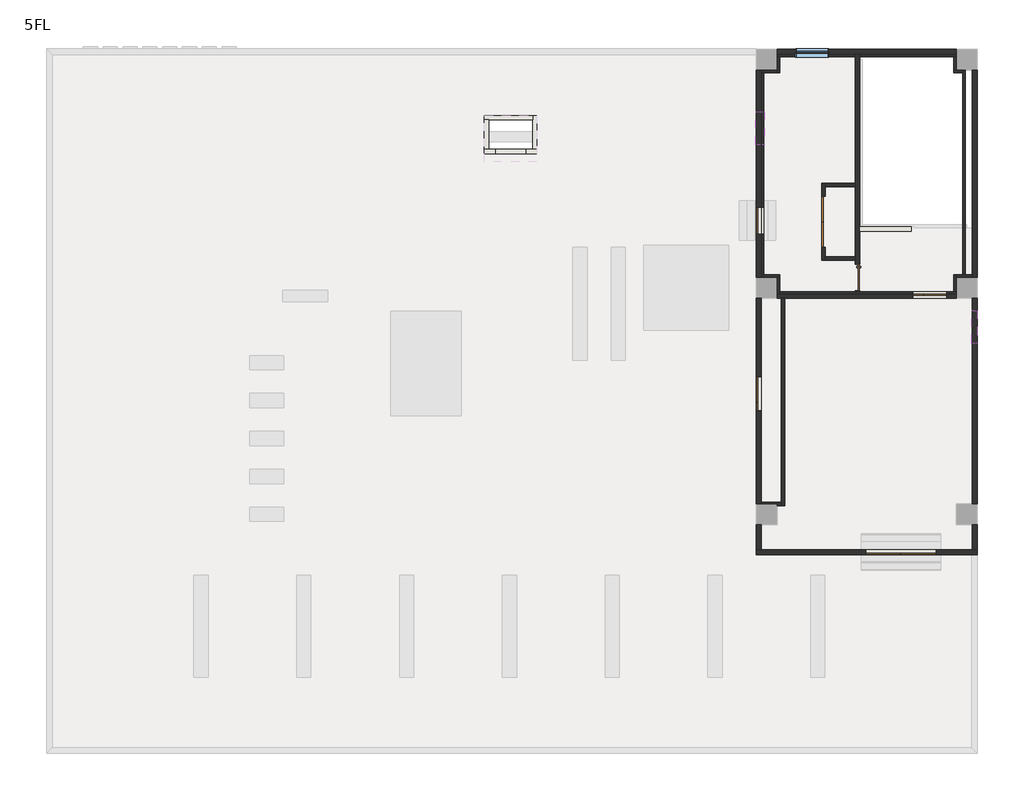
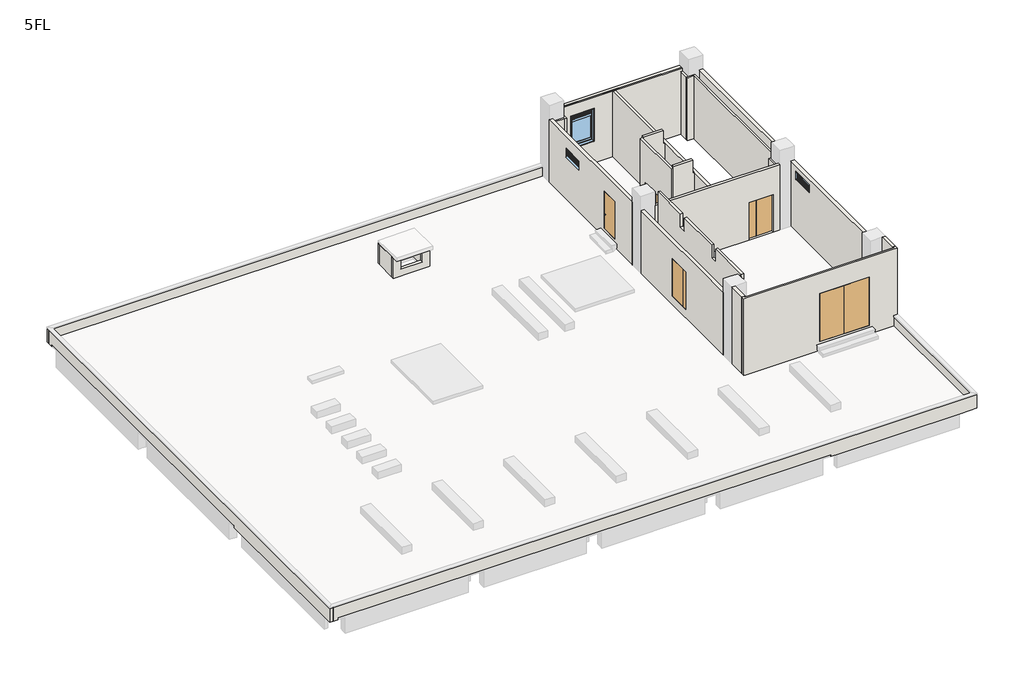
# One storey, part 1 of 3: 32 walls, 6 doors, 3 windows.
"""IFC4 building model written with IfcOpenShell, lengths in millimetres."""

from ifc_helpers import new_model, si_unit, frame, origin, place, context, project, spatial, polyline, outline, extrude, faceted_brep, transform, mapped, element, save
from components import door_19447788, door_c34db0e4, door_3f385317, door_eb4554f3, door_6b55382e, door_d86e35d7, ag_04_25b0d088, ag_04_77c323ad, aw10_97079301

model = new_model("IFC4")

# Units and contexts
model_context = context("Model", 3, world=origin())
ifc_project = project(units=[si_unit("LENGTHUNIT", "METRE", prefix="MILLI")], contexts=[model_context])

# Site, building, storey
site = spatial("IfcSite", under=ifc_project)
building = spatial("IfcBuilding", under=site)
storey = spatial("IfcBuildingStorey", under=building, Name="5FL", Elevation=16400.0)

# Doors
placement = place(None, origin())
door_shape = door_19447788(model_context)
element("IfcDoor", 1, ObjectType="営_片開き扉 : SD4c 950*2000", at=placement, inside=storey, context=model_context, shape_type="MappedRepresentation", body=[
    mapped(door_shape, transform((24715.0, 18375.0, 17000.0), x_axis=(0.0, -1.0, 0.0), y_axis=(1.0, 0.0, 0.0), z_axis=(0.0, 0.0, 1.0))),
])
door_2_shape = door_c34db0e4(model_context)
element("IfcDoor", 2, ObjectType="営_片開き扉 : SD4a 950*2000", at=placement, inside=storey, context=model_context, shape_type="MappedRepresentation", body=[
    mapped(door_2_shape, transform((28200.0, 16365.0, 16400.0), x_axis=(0.0, -1.0, 0.0), y_axis=(1.0, 0.0, 0.0), z_axis=(0.0, 0.0, 1.0))),
])
door_3_shape = door_3f385317(model_context)
element("IfcDoor", 3, ObjectType="営_親子扉 : SD9 1350*2000", at=placement, inside=storey, context=model_context, shape_type="MappedRepresentation", body=[
    mapped(door_3_shape, transform((24715.0, 12265.0, 17000.0), x_axis=(0.0, 1.0, 0.0), y_axis=(-1.0, 0.0, 0.0), z_axis=(0.0, 0.0, 1.0))),
])
door_4_shape = door_eb4554f3(model_context)
element("IfcDoor", 4, ObjectType="営_親子扉 : SD10 1110*2685", at=placement, inside=storey, context=model_context, shape_type="MappedRepresentation", body=[
    mapped(door_4_shape, transform((30745.0, 15705.0, 16400.0), x_axis=(1.0, 0.0, 0.0), y_axis=(0.0, 1.0, 0.0), z_axis=(0.0, 0.0, 1.0))),
])
door_5_shape = door_6b55382e(model_context)
element("IfcDoor", 5, ObjectType="営_両開き扉 : SD2 2500*2585", at=placement, inside=storey, context=model_context, shape_type="MappedRepresentation", body=[
    mapped(door_5_shape, transform((29735.0, 6665.0, 17000.0), x_axis=(1.0, 0.0, 0.0), y_axis=(0.0, 1.0, 0.0), z_axis=(0.0, 0.0, 1.0))),
])
door_6_shape = door_d86e35d7(model_context)
element("IfcDoor", 6, ObjectType="営_両開き扉 : SD8 1800*2000", at=placement, inside=storey, context=model_context, shape_type="MappedRepresentation", body=[
    mapped(door_6_shape, transform((27000.0, 18335.0, 16400.0), x_axis=(0.0, 1.0, 0.0), y_axis=(-1.0, 0.0, 0.0), z_axis=(0.0, 0.0, 1.0))),
])

# Walls
element("IfcWall", 7, ObjectType="(外壁)RC150+20", at=placement, inside=storey, context=model_context, shape_type="Brep", body=[
    faceted_brep([(24630.0, 7630.0, 20650.0), (24630.0, 7630.0, 16300.0), (24630.0, 6750.0, 16300.0), (24630.0, 6750.0, 16390.0), (24630.0, 6750.0, 20650.0), (24800.0, 7630.0, 16300.0), (24800.0, 7630.0, 20650.0), (24800.0, 6750.0, 20650.0), (24800.0, 6750.0, 16300.0), (24715.0, 6750.0, 20650.0)], [[[0, 1, 2, 3, 4]], [[5, 6, 7, 8]], [[1, 5, 8, 2]], [[4, 9, 7, 6, 0]], [[6, 5, 1, 0]], [[2, 8, 7, 9, 4, 3]]]),
    faceted_brep([(24630.0, 10575.0, 16300.0), (24630.0, 8370.0, 16300.0), (24630.0, 8370.0, 19900.0), (24630.0, 15630.0, 19900.0), (24630.0, 15630.0, 16300.0), (24630.0, 13675.0, 16300.0), (24630.0, 13675.0, 16390.0), (24630.0, 13325.0, 16390.0), (24630.0, 13325.0, 16300.0), (24630.0, 10925.0, 16300.0), (24630.0, 10925.0, 16390.0), (24630.0, 10575.0, 16390.0), (24630.0, 11665.0, 19000.0), (24630.0, 11665.0, 17000.0), (24630.0, 12865.0, 17000.0), (24630.0, 12865.0, 19000.0), (24800.0, 8370.0, 16300.0), (24800.0, 10575.0, 16300.0), (24800.0, 10575.0, 16390.0), (24800.0, 10925.0, 16390.0), (24800.0, 10925.0, 16300.0), (24800.0, 13325.0, 16300.0), (24800.0, 13325.0, 16390.0), (24800.0, 13675.0, 16390.0), (24800.0, 13675.0, 16300.0), (24800.0, 15630.0, 16300.0), (24800.0, 15630.0, 19900.0), (24800.0, 8370.0, 19900.0), (24800.0, 11665.0, 17000.0), (24800.0, 11665.0, 19000.0), (24800.0, 12865.0, 19000.0), (24800.0, 12865.0, 17000.0)], [[[0, 1, 2, 3, 4, 5, 6, 7, 8, 9, 10, 11], [12, 13, 14, 15]], [[16, 17, 18, 19, 20, 21, 22, 23, 24, 25, 26, 27], [28, 29, 30, 31]], [[4, 25, 24, 5]], [[16, 1, 0, 17]], [[20, 9, 8, 21]], [[25, 4, 3, 26]], [[1, 16, 27, 2]], [[13, 12, 29, 28]], [[14, 13, 28, 31]], [[15, 14, 31, 30]], [[12, 15, 30, 29]], [[3, 2, 27, 26]], [[11, 18, 17, 0]], [[19, 10, 9, 20]], [[18, 11, 10, 19]], [[7, 22, 21, 8]], [[23, 6, 5, 24]], [[22, 7, 6, 23]]]),
    faceted_brep([(24630.0, 18495.0, 16300.0), (24630.0, 16370.0, 16300.0), (24630.0, 16370.0, 19900.0), (24630.0, 23680.0, 19900.0), (24630.0, 23680.0, 16300.0), (24630.0, 21515.0, 16300.0), (24630.0, 21515.0, 16390.0), (24630.0, 21165.0, 16390.0), (24630.0, 21165.0, 16300.0), (24630.0, 18845.0, 16300.0), (24630.0, 18845.0, 16390.0), (24630.0, 18495.0, 16390.0), (24630.0, 18850.0, 17000.0), (24630.0, 18850.0, 19000.0), (24630.0, 17900.0, 19000.0), (24630.0, 17900.0, 17000.0), (24630.0, 21075.0, 18775.0), (24630.0, 22195.0, 18775.0), (24630.0, 22195.0, 19260.0), (24630.0, 21075.0, 19260.0), (24800.0, 16370.0, 16300.0), (24800.0, 18495.0, 16300.0), (24800.0, 18495.0, 16390.0), (24800.0, 18845.0, 16390.0), (24800.0, 18845.0, 16300.0), (24800.0, 21165.0, 16300.0), (24800.0, 21165.0, 16390.0), (24800.0, 21515.0, 16390.0), (24800.0, 21515.0, 16300.0), (24800.0, 23680.0, 16300.0), (24800.0, 23680.0, 19900.0), (24800.0, 16370.0, 19900.0), (24800.0, 18850.0, 19000.0), (24800.0, 18850.0, 17000.0), (24800.0, 17900.0, 17000.0), (24800.0, 17900.0, 19000.0), (24800.0, 22225.0, 19285.0), (24800.0, 22225.0, 18865.0), (24800.0, 21045.0, 18865.0), (24800.0, 21045.0, 19285.0), (24760.0, 22225.0, 19285.0), (24760.0, 22225.0, 18865.0), (24760.0, 21045.0, 18865.0), (24760.0, 21045.0, 19285.0), (24760.0, 22215.0, 18865.0), (24760.0, 21055.0, 18865.0), (24760.0, 21055.0, 19280.0), (24760.0, 22215.0, 19280.0), (24690.0, 22215.0, 19280.0), (24690.0, 22215.0, 18784.2307692), (24760.0, 22215.0, 18795.0), (24760.0, 21055.0, 18795.0), (24690.0, 21055.0, 18784.2307692), (24690.0, 21055.0, 19280.0), (24690.0, 22195.0, 18784.2307692), (24690.0, 21075.0, 18784.2307692), (24690.0, 21075.0, 19260.0), (24690.0, 22195.0, 19260.0)], [[[0, 1, 2, 3, 4, 5, 6, 7, 8, 9, 10, 11], [12, 13, 14, 15], [16, 17, 18, 19]], [[20, 21, 22, 23, 24, 25, 26, 27, 28, 29, 30, 31], [32, 33, 34, 35], [36, 37, 38, 39]], [[4, 29, 28, 5]], [[20, 1, 0, 21]], [[24, 9, 8, 25]], [[33, 32, 13, 12]], [[34, 33, 12, 15]], [[35, 34, 15, 14]], [[32, 35, 14, 13]], [[29, 4, 3, 30]], [[1, 20, 31, 2]], [[40, 41, 37, 36]], [[42, 43, 39, 38]], [[37, 41, 44, 45, 42, 38]], [[41, 40, 43, 42, 45, 46, 47, 44]], [[40, 36, 39, 43]], [[44, 47, 48, 49, 50]], [[46, 45, 51, 52, 53]], [[50, 49, 54, 17, 16, 55, 52, 51]], [[49, 48, 53, 52, 55, 56, 57, 54]], [[47, 46, 53, 48]], [[45, 44, 50, 51]], [[17, 54, 57, 18]], [[55, 16, 19, 56]], [[57, 56, 19, 18]], [[3, 2, 31, 30]], [[11, 22, 21, 0]], [[23, 10, 9, 24]], [[22, 11, 10, 23]], [[7, 26, 25, 8]], [[27, 6, 5, 28]], [[26, 7, 6, 27]]]),
])
element("IfcWall", 8, ObjectType="(内壁)150_RC", at=placement, inside=storey, context=model_context, shape_type="Brep", body=[
    faceted_brep([(31680.0, 15780.0, 16390.0), (25460.0, 15780.0, 16390.0), (25370.0, 15780.0, 16390.0), (25370.0, 15780.0, 19750.0), (25370.0, 15780.0, 19900.0), (28125.0, 15780.0, 19900.0), (28275.0, 15780.0, 19900.0), (31680.0, 15780.0, 19900.0), (31680.0, 15780.0, 19750.0), (30145.0, 15780.0, 18400.0), (30145.0, 15780.0, 16400.0), (31345.0, 15780.0, 16400.0), (31345.0, 15780.0, 18400.0), (25370.0, 15630.0, 16390.0), (25505.0, 15630.0, 16390.0), (25625.0, 15630.0, 16390.0), (31680.0, 15630.0, 16390.0), (31680.0, 15630.0, 19900.0), (25370.0, 15630.0, 19900.0), (30145.0, 15630.0, 16400.0), (30145.0, 15630.0, 18400.0), (31345.0, 15630.0, 18400.0), (31345.0, 15630.0, 16400.0)], [[[0, 1, 2, 3, 4, 5, 6, 7, 8], [9, 10, 11, 12]], [[13, 14, 15, 16, 17, 18], [19, 20, 21, 22]], [[13, 2, 1, 0, 16, 15, 14]], [[10, 9, 20, 19]], [[11, 10, 19, 22]], [[12, 11, 22, 21]], [[9, 12, 21, 20]], [[2, 13, 18, 4, 3]], [[16, 0, 8, 7, 17]], [[7, 6, 5, 4, 18, 17]]]),
])
element("IfcWall", 9, ObjectType="(外壁)RC150+20", at=placement, inside=storey, context=model_context, shape_type="Brep", body=[
    faceted_brep([(31680.0, 24250.0, 19900.0), (25370.0, 24250.0, 19900.0), (25370.0, 24250.0, 16390.0), (31680.0, 24250.0, 16390.0), (27190.0, 24250.0, 19320.0), (27190.0, 24250.0, 17565.0), (26010.0, 24250.0, 17565.0), (26010.0, 24250.0, 19320.0), (25370.0, 24420.0, 19900.0), (31680.0, 24420.0, 19900.0), (31680.0, 24420.0, 16390.0), (25370.0, 24420.0, 16390.0), (27160.0, 24420.0, 17475.0), (27160.0, 24420.0, 19295.0), (26040.0, 24420.0, 19295.0), (26040.0, 24420.0, 17475.0), (25370.0, 24290.0, 16390.0), (27180.0, 24360.0, 19315.0), (26020.0, 24360.0, 19315.0), (26020.0, 24360.0, 17484.2307692), (26040.0, 24360.0, 17484.2307692), (26040.0, 24360.0, 19295.0), (27160.0, 24360.0, 19295.0), (27160.0, 24360.0, 17484.2307692), (27180.0, 24360.0, 17484.2307692), (27190.0, 24290.0, 19320.0), (27190.0, 24290.0, 17565.0), (26010.0, 24290.0, 17565.0), (26010.0, 24290.0, 19320.0), (27180.0, 24290.0, 17565.0), (26020.0, 24290.0, 17565.0), (27180.0, 24290.0, 19315.0), (26020.0, 24290.0, 19315.0), (27180.0, 24290.0, 17495.0), (26020.0, 24290.0, 17495.0)], [[[0, 1, 2, 3], [4, 5, 6, 7]], [[8, 9, 10, 11], [12, 13, 14, 15]], [[0, 9, 8, 1]], [[9, 0, 3, 10]], [[1, 8, 11, 16, 2]], [[3, 2, 16, 11, 10]], [[17, 18, 19, 20, 21, 22, 23, 24]], [[23, 22, 13, 12]], [[25, 26, 5, 4]], [[27, 28, 7, 6]], [[26, 29, 30, 27, 6, 5]], [[31, 29, 26, 25, 28, 27, 30, 32]], [[28, 25, 4, 7]], [[33, 29, 31, 17, 24]], [[30, 34, 19, 18, 32]], [[23, 12, 15, 20, 19, 34, 33, 24]], [[18, 17, 31, 32]], [[29, 33, 34, 30]], [[14, 21, 20, 15]], [[22, 21, 14, 13]]]),
])
element("IfcWall", 10, ObjectType="(外壁)RC150+20", at=placement, inside=storey, context=model_context, shape_type="Brep", body=[
    faceted_brep([(32250.0, 6750.0, 16300.0), (32250.0, 6750.0, 20650.0), (32250.0, 7630.0, 20650.0), (32250.0, 7630.0, 16300.0), (32420.0, 6750.0, 20650.0), (32420.0, 6750.0, 16300.0), (32420.0, 7605.0, 16300.0), (32420.0, 7630.0, 16300.0), (32420.0, 7630.0, 20650.0), (32335.0, 6750.0, 16300.0), (32325.0, 6750.0, 20650.0)], [[[0, 1, 2, 3]], [[4, 5, 6, 7, 8]], [[5, 9, 0, 3, 7, 6]], [[1, 10, 4, 8, 2]], [[0, 9, 5, 4, 10, 1]], [[3, 2, 8, 7]]]),
    faceted_brep([(32250.0, 8370.0, 19900.0), (32250.0, 15630.0, 19900.0), (32250.0, 15630.0, 16390.0), (32250.0, 8370.0, 16390.0), (32250.0, 14027.5, 19595.0), (32250.0, 14027.5, 19175.0), (32250.0, 15207.5, 19175.0), (32250.0, 15207.5, 19595.0), (32420.0, 15630.0, 19900.0), (32420.0, 8370.0, 19900.0), (32420.0, 8370.0, 16390.0), (32420.0, 15630.0, 16390.0), (32420.0, 15177.5, 19085.0), (32420.0, 14057.5, 19085.0), (32420.0, 14057.5, 19570.0), (32420.0, 15177.5, 19570.0), (32335.0, 8370.0, 16390.0), (32335.0, 15630.0, 16390.0), (32290.0, 14027.5, 19595.0), (32290.0, 14027.5, 19175.0), (32290.0, 15207.5, 19175.0), (32290.0, 15207.5, 19595.0), (32290.0, 14037.5, 19175.0), (32290.0, 15197.5, 19175.0), (32290.0, 15197.5, 19590.0), (32290.0, 14037.5, 19590.0), (32360.0, 14037.5, 19590.0), (32360.0, 14037.5, 19094.2307692), (32290.0, 14037.5, 19105.0), (32290.0, 15197.5, 19105.0), (32360.0, 15197.5, 19094.2307692), (32360.0, 15197.5, 19590.0), (32360.0, 14057.5, 19094.2307692), (32360.0, 15177.5, 19094.2307692), (32360.0, 15177.5, 19570.0), (32360.0, 14057.5, 19570.0)], [[[0, 1, 2, 3], [4, 5, 6, 7]], [[8, 9, 10, 11], [12, 13, 14, 15]], [[9, 0, 3, 16, 10]], [[1, 8, 11, 17, 2]], [[18, 19, 5, 4]], [[20, 21, 7, 6]], [[5, 19, 22, 23, 20, 6]], [[19, 18, 21, 20, 23, 24, 25, 22]], [[18, 4, 7, 21]], [[22, 25, 26, 27, 28]], [[24, 23, 29, 30, 31]], [[28, 27, 32, 13, 12, 33, 30, 29]], [[27, 26, 31, 30, 33, 34, 35, 32]], [[25, 24, 31, 26]], [[23, 22, 28, 29]], [[13, 32, 35, 14]], [[33, 12, 15, 34]], [[35, 34, 15, 14]], [[1, 0, 9, 8]], [[3, 2, 17, 11, 10, 16]]]),
    faceted_brep([(32250.0, 23680.0, 16390.0), (32250.0, 16370.0, 16390.0), (32250.0, 16370.0, 19900.0), (32250.0, 23680.0, 19900.0), (32420.0, 16370.0, 16390.0), (32420.0, 23680.0, 16390.0), (32420.0, 23680.0, 19900.0), (32420.0, 16370.0, 19900.0), (32335.0, 16370.0, 16390.0)], [[[0, 1, 2, 3]], [[4, 5, 6, 7]], [[1, 8, 4, 7, 2]], [[5, 0, 3, 6]], [[1, 0, 5, 4, 8]], [[3, 2, 7, 6]]]),
])
element("IfcWall", 11, ObjectType="(内壁)150_RC", at=placement, inside=storey, context=model_context, shape_type="Brep", body=[
    faceted_brep([(28125.0, 15890.0, 18400.0), (28125.0, 15890.0, 16400.0), (28125.0, 15780.0, 16400.0), (28125.0, 15780.0, 19900.0), (28125.0, 16975.0, 19900.0), (28125.0, 17095.0, 19900.0), (28125.0, 19575.0, 19900.0), (28125.0, 19695.0, 19900.0), (28125.0, 24250.0, 19900.0), (28125.0, 24250.0, 16400.0), (28125.0, 19695.0, 16400.0), (28125.0, 19575.0, 16400.0), (28125.0, 17095.0, 16400.0), (28125.0, 16975.0, 16400.0), (28125.0, 16840.0, 16400.0), (28125.0, 16840.0, 18400.0), (28275.0, 15780.0, 16400.0), (28275.0, 15890.0, 16400.0), (28275.0, 15890.0, 18400.0), (28275.0, 16840.0, 18400.0), (28275.0, 16840.0, 16400.0), (28275.0, 18000.0, 16400.0), (28275.0, 18150.0, 16400.0), (28275.0, 24250.0, 16400.0), (28275.0, 24250.0, 19900.0), (28275.0, 15780.0, 19900.0)], [[[0, 1, 2, 3, 4, 5, 6, 7, 8, 9, 10, 11, 12, 13, 14, 15]], [[16, 17, 18, 19, 20, 21, 22, 23, 24, 25]], [[2, 1, 17, 16]], [[14, 13, 12, 11, 10, 9, 23, 22, 21, 20]], [[8, 7, 6, 5, 4, 3, 25, 24]], [[3, 2, 16, 25]], [[20, 19, 15, 14]], [[18, 17, 1, 0]], [[19, 18, 0, 15]], [[9, 8, 24, 23]]]),
])
element("IfcWall", 12, ObjectType="(外壁)RC150+20", at=placement, inside=storey, context=model_context, shape_type="Brep", body=[
    faceted_brep([(-420.0, 24420.0, 17050.0), (24630.0, 24420.0, 17050.0), (24630.0, 24420.0, 16390.0), (19000.0, 24420.0, 16390.0), (13000.0, 24420.0, 16390.0), (7000.0, 24420.0, 16390.0), (0.0, 24420.0, 16390.0), (0.0, 24420.0, 16300.0), (-420.0, 24420.0, 16300.0), (24630.0, 24250.0, 17050.0), (-250.0, 24250.0, 17050.0), (-420.0, 24250.0, 17050.0), (-420.0, 24250.0, 16300.0), (-325.0, 24250.0, 16300.0), (0.0, 24250.0, 16300.0), (0.0, 24250.0, 16390.0), (24630.0, 24250.0, 16390.0), (0.0, 24290.0, 16300.0), (0.0, 24290.0, 16390.0), (24630.0, 24290.0, 16390.0)], [[[0, 1, 2, 3, 4, 5, 6, 7, 8]], [[9, 10, 11, 12, 13, 14, 15, 16]], [[12, 8, 7, 17, 14, 13]], [[1, 0, 11, 10, 9]], [[0, 8, 12, 11]], [[15, 18, 6, 5, 4, 3, 2, 19, 16]], [[6, 18, 15, 14, 17, 7]], [[1, 9, 16, 19, 2]]]),
])
element("IfcWall", 13, ObjectType="(外壁)RC150+20", at=placement, inside=storey, context=model_context, shape_type="Brep", body=[
    faceted_brep([(-250.0, 24250.0, 17050.0), (-250.0, -250.0, 17050.0), (-250.0, -420.0, 17050.0), (-250.0, -420.0, 16300.0), (-250.0, -335.0, 16300.0), (-250.0, -335.0, 16390.0), (-250.0, -250.0, 16390.0), (-250.0, 24250.0, 16390.0), (-420.0, -420.0, 17050.0), (-420.0, 24250.0, 17050.0), (-420.0, 24250.0, 16300.0), (-420.0, 24000.0, 16300.0), (-420.0, 24000.0, 16390.0), (-420.0, 16000.0, 16390.0), (-420.0, 8000.0, 16390.0), (-420.0, 8000.0, 16300.0), (-420.0, 7605.0, 16300.0), (-420.0, 370.0, 16300.0), (-420.0, -420.0, 16300.0), (-325.0, 24250.0, 16300.0), (-325.0, 24000.0, 16300.0), (-325.0, 8000.0, 16300.0), (-325.0, -335.0, 16300.0), (-325.0, 24250.0, 16390.0), (-325.0, -335.0, 16390.0), (-325.0, 8000.0, 16390.0), (-325.0, 24000.0, 16390.0)], [[[0, 1, 2, 3, 4, 5, 6, 7]], [[8, 9, 10, 11, 12, 13, 14, 15, 16, 17, 18]], [[10, 19, 20, 11]], [[3, 18, 17, 16, 15, 21, 22, 4]], [[2, 1, 0, 9, 8]], [[3, 2, 8, 18]], [[10, 9, 0, 7, 23, 19]], [[5, 24, 25, 14, 13, 12, 26, 23, 7, 6]], [[24, 5, 4, 22]], [[24, 22, 21, 25]], [[19, 23, 26, 20]], [[14, 25, 21, 15]], [[26, 12, 11, 20]]]),
])
element("IfcWall", 14, ObjectType="(外壁)RC150+20", at=placement, inside=storey, context=model_context, shape_type="Brep", body=[
    faceted_brep([(-250.0, -250.0, 17050.0), (32250.0, -250.0, 17050.0), (32420.0, -250.0, 17050.0), (32420.0, -250.0, 16300.0), (32335.0, -250.0, 16300.0), (32335.0, -250.0, 16390.0), (32250.0, -250.0, 16390.0), (-250.0, -250.0, 16390.0), (32420.0, -420.0, 17050.0), (-250.0, -420.0, 17050.0), (-250.0, -420.0, 16300.0), (0.0, -420.0, 16300.0), (0.0, -420.0, 16390.0), (7000.0, -420.0, 16390.0), (13000.0, -420.0, 16390.0), (19000.0, -420.0, 16390.0), (25000.0, -420.0, 16390.0), (25000.0, -420.0, 16300.0), (25395.0, -420.0, 16300.0), (31630.0, -420.0, 16300.0), (32420.0, -420.0, 16300.0), (-250.0, -335.0, 16300.0), (0.0, -335.0, 16300.0), (25000.0, -335.0, 16300.0), (32335.0, -335.0, 16300.0), (-250.0, -335.0, 16390.0), (32335.0, -335.0, 16390.0), (25000.0, -335.0, 16390.0), (0.0, -335.0, 16390.0)], [[[0, 1, 2, 3, 4, 5, 6, 7]], [[8, 9, 10, 11, 12, 13, 14, 15, 16, 17, 18, 19, 20]], [[10, 21, 22, 11]], [[3, 20, 19, 18, 17, 23, 24, 4]], [[2, 1, 0, 9, 8]], [[3, 2, 8, 20]], [[10, 9, 0, 7, 25, 21]], [[5, 26, 27, 16, 15, 14, 13, 12, 28, 25, 7, 6]], [[26, 5, 4, 24]], [[21, 25, 28, 22]], [[26, 24, 23, 27]], [[28, 12, 11, 22]], [[16, 27, 23, 17]]]),
])
element("IfcWall", 15, ObjectType="(外壁)RC150+20", at=placement, inside=storey, context=model_context, shape_type="Brep", body=[
    faceted_brep([(32250.0, -250.0, 17050.0), (32250.0, 6580.0, 17050.0), (32250.0, 6580.0, 16390.0), (32250.0, -250.0, 16390.0), (32420.0, -250.0, 16300.0), (32420.0, 370.0, 16300.0), (32420.0, 6580.0, 16300.0), (32420.0, 6580.0, 16390.0), (32420.0, 6580.0, 17050.0), (32420.0, -250.0, 17050.0), (32335.0, -250.0, 16300.0), (32335.0, 6580.0, 16300.0), (32335.0, -250.0, 16390.0), (32335.0, 6580.0, 16390.0)], [[[0, 1, 2, 3]], [[4, 5, 6, 7, 8, 9]], [[6, 5, 4, 10, 11]], [[1, 0, 9, 8]], [[4, 9, 0, 3, 12, 10]], [[1, 8, 7, 6, 11, 13, 2]], [[13, 12, 3, 2]], [[12, 13, 11, 10]]]),
])
element("IfcWall", 16, ObjectType="(外壁)RC150+20", at=placement, inside=storey, context=model_context, shape_type="Brep", body=[
    faceted_brep([(32420.0, 6750.0, 20650.0), (32420.0, 6750.0, 16300.0), (32335.0, 6750.0, 16300.0), (32335.0, 6750.0, 16390.0), (24630.0, 6750.0, 16390.0), (24630.0, 6750.0, 20650.0), (24715.0, 6750.0, 20650.0), (24715.0, 6750.0, 20600.0), (32325.0, 6750.0, 20600.0), (32325.0, 6750.0, 20650.0), (28485.0, 6750.0, 19585.0), (28485.0, 6750.0, 17000.0), (30985.0, 6750.0, 17000.0), (30985.0, 6750.0, 19585.0), (32420.0, 6580.0, 20650.0), (32250.0, 6580.0, 20650.0), (24800.0, 6580.0, 20650.0), (24630.0, 6580.0, 20650.0), (24630.0, 6580.0, 16390.0), (32250.0, 6580.0, 16390.0), (32335.0, 6580.0, 16390.0), (32335.0, 6580.0, 16300.0), (32420.0, 6580.0, 16300.0), (32420.0, 6580.0, 17050.0), (28485.0, 6580.0, 17000.0), (28485.0, 6580.0, 19585.0), (30985.0, 6580.0, 19585.0), (30985.0, 6580.0, 17000.0), (32325.0, 6675.0, 20650.0), (32250.0, 6675.0, 20650.0), (24800.0, 6675.0, 20650.0), (24715.0, 6675.0, 20650.0), (24715.0, 6675.0, 20600.0), (32325.0, 6675.0, 20600.0)], [[[0, 1, 2, 3, 4, 5, 6, 7, 8, 9], [10, 11, 12, 13]], [[14, 15, 16, 17, 18, 19, 20, 21, 22, 23], [24, 25, 26, 27]], [[1, 22, 21, 2]], [[17, 16, 15, 14, 0, 9, 28, 29, 30, 31, 6, 5]], [[11, 10, 25, 24]], [[12, 11, 24, 27]], [[13, 12, 27, 26]], [[10, 13, 26, 25]], [[1, 0, 14, 23, 22]], [[32, 33, 8, 7]], [[8, 33, 28, 9]], [[33, 32, 31, 30, 29, 28]], [[32, 7, 6, 31]], [[3, 20, 19, 18, 4]], [[20, 3, 2, 21]], [[17, 5, 4, 18]]]),
])
element("IfcWall", 17, ObjectType="(内壁)W3", at=placement, inside=storey, context=model_context, shape_type="Brep", body=[
    faceted_brep([(26940.0, 19695.0, 16400.0), (26940.0, 19235.0, 16400.0), (26940.0, 19235.0, 18400.0), (26940.0, 17435.0, 18400.0), (26940.0, 17435.0, 16400.0), (26940.0, 16975.0, 16400.0), (26940.0, 16975.0, 20500.0), (26940.0, 19695.0, 20500.0), (27060.0, 19235.0, 18400.0), (27060.0, 19235.0, 16400.0), (27060.0, 19575.0, 16400.0), (27060.0, 19695.0, 16400.0), (27060.0, 19695.0, 20500.0), (27060.0, 16975.0, 20500.0), (27060.0, 16975.0, 16400.0), (27060.0, 17095.0, 16400.0), (27060.0, 17435.0, 16400.0), (27060.0, 17435.0, 18400.0)], [[[0, 1, 2, 3, 4, 5, 6, 7]], [[8, 9, 10, 11, 12, 13, 14, 15, 16, 17]], [[11, 10, 9, 1, 0]], [[16, 15, 14, 5, 4]], [[7, 6, 13, 12]], [[0, 7, 12, 11]], [[6, 5, 14, 13]], [[4, 3, 17, 16]], [[2, 1, 9, 8]], [[3, 2, 8, 17]]]),
])
element("IfcWall", 18, ObjectType="(内壁)W3", at=placement, inside=storey, context=model_context, shape_type="Brep", body=[
    faceted_brep([(27060.0, 19575.0, 16400.0), (28125.0, 19575.0, 16400.0), (28125.0, 19575.0, 19900.0), (28046.0, 19575.0, 19900.0), (28046.0, 19575.0, 20600.0), (27060.0, 19575.0, 20600.0), (28125.0, 19695.0, 16400.0), (27060.0, 19695.0, 16400.0), (27060.0, 19695.0, 20500.0), (27060.0, 19695.0, 20600.0), (28046.0, 19695.0, 20600.0), (28046.0, 19695.0, 19900.0), (28125.0, 19695.0, 19900.0)], [[[0, 1, 2, 3, 4, 5]], [[6, 7, 8, 9, 10, 11, 12]], [[1, 0, 7, 6]], [[9, 5, 4, 10]], [[0, 5, 9, 8, 7]], [[1, 6, 12, 2]], [[11, 3, 2, 12]], [[3, 11, 10, 4]]]),
])
element("IfcWall", 19, ObjectType="(内壁)W3", at=placement, inside=storey, context=model_context, shape_type="Brep", body=[
    faceted_brep([(27060.0, 16975.0, 16400.0), (28125.0, 16975.0, 16400.0), (28125.0, 16975.0, 19900.0), (28046.0, 16975.0, 19900.0), (28046.0, 16975.0, 20600.0), (27060.0, 16975.0, 20600.0), (27060.0, 16975.0, 20500.0), (28125.0, 17095.0, 16400.0), (27060.0, 17095.0, 16400.0), (27060.0, 17095.0, 20600.0), (28046.0, 17095.0, 20600.0), (28046.0, 17095.0, 19900.0), (28125.0, 17095.0, 19900.0)], [[[0, 1, 2, 3, 4, 5, 6]], [[7, 8, 9, 10, 11, 12]], [[1, 0, 8, 7]], [[9, 5, 4, 10]], [[1, 7, 12, 2]], [[0, 6, 5, 9, 8]], [[11, 3, 2, 12]], [[3, 11, 10, 4]]]),
])
element("IfcWall", 20, ObjectType="(内壁)W3", at=placement, inside=storey, context=model_context, shape_type="Brep", body=[
    faceted_brep([(25505.0, 15630.0, 16390.0), (25505.0, 8430.0, 16390.0), (25505.0, 8310.0, 16390.0), (25505.0, 8310.0, 20500.0), (25505.0, 8310.0, 20600.0), (25505.0, 10575.0, 20600.0), (25505.0, 10575.0, 19900.0), (25505.0, 10925.0, 19900.0), (25505.0, 10925.0, 20600.0), (25505.0, 13325.0, 20600.0), (25505.0, 13325.0, 19900.0), (25505.0, 13675.0, 19900.0), (25505.0, 13675.0, 20600.0), (25505.0, 15630.0, 20600.0), (25625.0, 8310.0, 16390.0), (25625.0, 15630.0, 16390.0), (25625.0, 15630.0, 20600.0), (25625.0, 13675.0, 20600.0), (25625.0, 13675.0, 19900.0), (25625.0, 13325.0, 19900.0), (25625.0, 13325.0, 20600.0), (25625.0, 10925.0, 20600.0), (25625.0, 10925.0, 19900.0), (25625.0, 10575.0, 19900.0), (25625.0, 10575.0, 20600.0), (25625.0, 8310.0, 20600.0)], [[[0, 1, 2, 3, 4, 5, 6, 7, 8, 9, 10, 11, 12, 13]], [[14, 15, 16, 17, 18, 19, 20, 21, 22, 23, 24, 25]], [[2, 1, 0, 15, 14]], [[4, 25, 24, 5]], [[16, 13, 12, 17]], [[8, 21, 20, 9]], [[4, 3, 2, 14, 25]], [[0, 13, 16, 15]], [[23, 6, 5, 24]], [[6, 23, 22, 7]], [[7, 22, 21, 8]], [[19, 10, 9, 20]], [[10, 19, 18, 11]], [[11, 18, 17, 12]]]),
])
element("IfcWall", 21, ObjectType="(内壁)W3", at=placement, inside=storey, context=model_context, shape_type="Brep", body=[
    faceted_brep([(25505.0, 8430.0, 16390.0), (24800.0, 8430.0, 16390.0), (24800.0, 8430.0, 19900.0), (25000.0, 8430.0, 19900.0), (25000.0, 8430.0, 20500.0), (25505.0, 8430.0, 20500.0), (25505.0, 8310.0, 16390.0), (25505.0, 8310.0, 20500.0), (25370.0, 8310.0, 20500.0), (25370.0, 8310.0, 16390.0), (25370.0, 8370.0, 16390.0), (24800.0, 8370.0, 16390.0), (25000.0, 8370.0, 20500.0), (25370.0, 8370.0, 20500.0), (24800.0, 8370.0, 19900.0), (25000.0, 8370.0, 19900.0)], [[[0, 1, 2, 3, 4, 5]], [[6, 7, 8, 9]], [[1, 0, 6, 9, 10, 11]], [[7, 5, 4, 12, 13, 8]], [[0, 5, 7, 6]], [[1, 11, 14, 2]], [[9, 8, 13, 10]], [[11, 10, 13, 12, 15, 14]], [[3, 15, 12, 4]], [[15, 3, 2, 14]]]),
])
element("IfcWall", 22, ObjectType="(外壁)RC150", at=placement, inside=storey, context=model_context, shape_type="Brep", body=[
    faceted_brep([(15025.0, 20735.0, 16390.0), (16875.0, 20735.0, 16390.0), (16875.0, 20735.0, 17600.0), (16500.0, 20735.0, 17600.0), (16500.0, 20735.0, 16900.0), (15400.0, 20735.0, 16900.0), (15400.0, 20735.0, 17600.0), (15025.0, 20735.0, 17600.0), (15025.0, 20885.0, 16390.0), (15025.0, 20885.0, 17600.0), (15175.0, 20885.0, 17600.0), (15400.0, 20885.0, 17600.0), (15400.0, 20885.0, 16900.0), (16500.0, 20885.0, 16900.0), (16500.0, 20885.0, 17600.0), (16725.0, 20885.0, 17600.0), (16875.0, 20885.0, 17600.0), (16875.0, 20885.0, 16390.0), (16725.0, 20885.0, 16390.0), (15175.0, 20885.0, 16390.0)], [[[0, 1, 2, 3, 4, 5, 6, 7]], [[8, 9, 10, 11, 12, 13, 14, 15, 16, 17, 18, 19]], [[2, 1, 17, 16]], [[0, 7, 9, 8]], [[1, 0, 8, 19, 18, 17]], [[3, 2, 16, 15, 14]], [[4, 3, 14, 13]], [[5, 4, 13, 12]], [[6, 5, 12, 11]], [[7, 6, 11, 10, 9]]]),
])
element("IfcWall", 23, ObjectType="(外壁)RC150", at=placement, inside=storey, context=model_context, shape_type="Brep", body=[
    faceted_brep([(16875.0, 20885.0, 16390.0), (16875.0, 22085.0, 16390.0), (16875.0, 22085.0, 17600.0), (16875.0, 20885.0, 17600.0), (16725.0, 20885.0, 16390.0), (16725.0, 20885.0, 17600.0), (16725.0, 21935.0, 17600.0), (16725.0, 22085.0, 17600.0), (16725.0, 22085.0, 16390.0), (16725.0, 21935.0, 16390.0)], [[[0, 1, 2, 3]], [[4, 5, 6, 7, 8, 9]], [[1, 0, 4, 9, 8]], [[3, 2, 7, 6, 5]], [[0, 3, 5, 4]], [[2, 1, 8, 7]]]),
])
element("IfcWall", 24, ObjectType="(外壁)RC150", at=placement, inside=storey, context=model_context, shape_type="Brep", body=[
    faceted_brep([(16725.0, 22085.0, 16390.0), (15025.0, 22085.0, 16390.0), (15025.0, 22085.0, 17600.0), (16725.0, 22085.0, 17600.0), (16725.0, 21935.0, 16390.0), (16725.0, 21935.0, 17600.0), (15175.0, 21935.0, 17600.0), (15025.0, 21935.0, 17600.0), (15025.0, 21935.0, 16390.0), (15175.0, 21935.0, 16390.0)], [[[0, 1, 2, 3]], [[4, 5, 6, 7, 8, 9]], [[1, 0, 4, 9, 8]], [[3, 2, 7, 6, 5]], [[0, 3, 5, 4]], [[2, 1, 8, 7]]]),
])
element("IfcWall", 25, ObjectType="(外壁)RC150", at=placement, inside=storey, context=model_context, shape_type="SweptSolid", body=[
    extrude(outline(polyline([(15025.0, 20885.0), (15025.0, 21935.0), (15175.0, 21935.0), (15175.0, 20885.0), (15025.0, 20885.0)])), frame((0.0, 0.0, 16390.0), z_axis=(0.0, 0.0, 1.0), x_axis=(1.0, 0.0, 0.0)), (0.0, 0.0, 1.0), 1210.0),
])
element("IfcWall", 26, ObjectType="(内壁)150_RC", at=placement, inside=storey, context=model_context, shape_type="SweptSolid", body=[
    extrude(outline(polyline([(30105.0, 18000.0), (28275.0, 18000.0), (28275.0, 18150.0), (30105.0, 18150.0), (30105.0, 18000.0)])), frame((0.0, 0.0, 16400.0), z_axis=(0.0, 0.0, 1.0), x_axis=(1.0, 0.0, 0.0)), (0.0, 0.0, 1.0), 1200.0),
])
element("IfcWall", 27, ObjectType="(内壁)W5", at=placement, inside=storey, context=model_context, shape_type="Brep", body=[
    faceted_brep([(31680.0, 24250.0, 16390.0), (25370.0, 24250.0, 16390.0), (25370.0, 24250.0, 19900.0), (31680.0, 24250.0, 19900.0), (27190.0, 24250.0, 17565.0), (27190.0, 24250.0, 19320.0), (26010.0, 24250.0, 19320.0), (26010.0, 24250.0, 17565.0), (25370.0, 24160.0, 16390.0), (25460.0, 24160.0, 16390.0), (31590.0, 24160.0, 16390.0), (31680.0, 24160.0, 16390.0), (31680.0, 24160.0, 19750.0), (31680.0, 24160.0, 19900.0), (25370.0, 24160.0, 19900.0), (25370.0, 24160.0, 19750.0), (27190.0, 24160.0, 19320.0), (27190.0, 24160.0, 17565.0), (26010.0, 24160.0, 17565.0), (26010.0, 24160.0, 19320.0)], [[[0, 1, 2, 3], [4, 5, 6, 7]], [[8, 9, 10, 11, 12, 13, 14, 15], [16, 17, 18, 19]], [[1, 0, 11, 10, 9, 8]], [[3, 2, 14, 13]], [[2, 1, 8, 15, 14]], [[0, 3, 13, 12, 11]], [[16, 5, 4, 17]], [[18, 7, 6, 19]], [[17, 4, 7, 18]], [[5, 16, 19, 6]]]),
])
element("IfcWall", 28, ObjectType="(内壁)W5", at=placement, inside=storey, context=model_context, shape_type="Brep", body=[
    faceted_brep([(25370.0, 24160.0, 16390.0), (25370.0, 23680.0, 16390.0), (25370.0, 23590.0, 16390.0), (25370.0, 23590.0, 19750.0), (25370.0, 23680.0, 19750.0), (25370.0, 24160.0, 19750.0), (25460.0, 24160.0, 16390.0), (25460.0, 24160.0, 19750.0), (25460.0, 23590.0, 19750.0), (25460.0, 23590.0, 16390.0)], [[[0, 1, 2, 3, 4, 5]], [[6, 7, 8, 9]], [[2, 1, 0, 6, 9]], [[5, 4, 3, 8, 7]], [[0, 5, 7, 6]], [[3, 2, 9, 8]]]),
])
element("IfcWall", 29, ObjectType="(内壁)W5", at=placement, inside=storey, context=model_context, shape_type="Brep", body=[
    faceted_brep([(25370.0, 23680.0, 16390.0), (24800.0, 23680.0, 16390.0), (24800.0, 23680.0, 19750.0), (25370.0, 23680.0, 19750.0), (25370.0, 23590.0, 16390.0), (25370.0, 23590.0, 19750.0), (24890.0, 23590.0, 19750.0), (24800.0, 23590.0, 19750.0), (24800.0, 23590.0, 16390.0), (24890.0, 23590.0, 16390.0)], [[[0, 1, 2, 3]], [[4, 5, 6, 7, 8, 9]], [[1, 0, 4, 9, 8]], [[3, 2, 7, 6, 5]], [[0, 3, 5, 4]], [[2, 1, 8, 7]]]),
])
element("IfcWall", 30, ObjectType="(内壁)W5", at=placement, inside=storey, context=model_context, shape_type="Brep", body=[
    faceted_brep([(24800.0, 23590.0, 16390.0), (24800.0, 16370.0, 16390.0), (24800.0, 16370.0, 19750.0), (24800.0, 23590.0, 19750.0), (24800.0, 18850.0, 19000.0), (24800.0, 17900.0, 19000.0), (24800.0, 17900.0, 17000.0), (24800.0, 18850.0, 17000.0), (24800.0, 22225.0, 18865.0), (24800.0, 22225.0, 19285.0), (24800.0, 21045.0, 19285.0), (24800.0, 21045.0, 18865.0), (24890.0, 16370.0, 16390.0), (24890.0, 16460.0, 16390.0), (24890.0, 23590.0, 16390.0), (24890.0, 23590.0, 19750.0), (24890.0, 16460.0, 19750.0), (24890.0, 16370.0, 19750.0), (24890.0, 18850.0, 19000.0), (24890.0, 18850.0, 17000.0), (24890.0, 17900.0, 17000.0), (24890.0, 17900.0, 19000.0), (24890.0, 22225.0, 19285.0), (24890.0, 22225.0, 18865.0), (24890.0, 21045.0, 18865.0), (24890.0, 21045.0, 19285.0)], [[[0, 1, 2, 3], [4, 5, 6, 7], [8, 9, 10, 11]], [[12, 13, 14, 15, 16, 17], [18, 19, 20, 21], [22, 23, 24, 25]], [[1, 0, 14, 13, 12]], [[3, 2, 17, 16, 15]], [[0, 3, 15, 14]], [[2, 1, 12, 17]], [[19, 18, 4, 7]], [[20, 19, 7, 6]], [[21, 20, 6, 5]], [[18, 21, 5, 4]], [[22, 9, 8, 23]], [[24, 11, 10, 25]], [[23, 8, 11, 24]], [[9, 22, 25, 10]]]),
])
element("IfcWall", 31, ObjectType="(内壁)W5", at=placement, inside=storey, context=model_context, shape_type="Brep", body=[
    faceted_brep([(24890.0, 16370.0, 16390.0), (25370.0, 16370.0, 16390.0), (25460.0, 16370.0, 16390.0), (25460.0, 16370.0, 19750.0), (25370.0, 16370.0, 19750.0), (24890.0, 16370.0, 19750.0), (24890.0, 16460.0, 16390.0), (24890.0, 16460.0, 19750.0), (25460.0, 16460.0, 19750.0), (25460.0, 16460.0, 16390.0)], [[[0, 1, 2, 3, 4, 5]], [[6, 7, 8, 9]], [[2, 1, 0, 6, 9]], [[5, 4, 3, 8, 7]], [[0, 5, 7, 6]], [[3, 2, 9, 8]]]),
])
element("IfcWall", 32, ObjectType="(内壁)W5", at=placement, inside=storey, context=model_context, shape_type="Brep", body=[
    faceted_brep([(25370.0, 16370.0, 16390.0), (25370.0, 15780.0, 16390.0), (25370.0, 15780.0, 19750.0), (25370.0, 16370.0, 19750.0), (25460.0, 16370.0, 16390.0), (25460.0, 16370.0, 19750.0), (25460.0, 15870.0, 19750.0), (25460.0, 15780.0, 19750.0), (25460.0, 15780.0, 16390.0), (25460.0, 15870.0, 16390.0)], [[[0, 1, 2, 3]], [[4, 5, 6, 7, 8, 9]], [[1, 0, 4, 9, 8]], [[3, 2, 7, 6, 5]], [[0, 3, 5, 4]], [[2, 1, 8, 7]]]),
])
element("IfcWall", 33, ObjectType="(内壁)W5", at=placement, inside=storey, context=model_context, shape_type="Brep", body=[
    faceted_brep([(25460.0, 15780.0, 16390.0), (31680.0, 15780.0, 16390.0), (31680.0, 15780.0, 19750.0), (25460.0, 15780.0, 19750.0), (30145.0, 15780.0, 18400.0), (31345.0, 15780.0, 18400.0), (31345.0, 15780.0, 16400.0), (30145.0, 15780.0, 16400.0), (25460.0, 15870.0, 16390.0), (25460.0, 15870.0, 19750.0), (31590.0, 15870.0, 19750.0), (31680.0, 15870.0, 19750.0), (31680.0, 15870.0, 16390.0), (31590.0, 15870.0, 16390.0), (30145.0, 15870.0, 18400.0), (30145.0, 15870.0, 16400.0), (31345.0, 15870.0, 16400.0), (31345.0, 15870.0, 18400.0)], [[[0, 1, 2, 3], [4, 5, 6, 7]], [[8, 9, 10, 11, 12, 13], [14, 15, 16, 17]], [[1, 0, 8, 13, 12]], [[3, 2, 11, 10, 9]], [[0, 3, 9, 8]], [[2, 1, 12, 11]], [[15, 14, 4, 7]], [[16, 15, 7, 6]], [[17, 16, 6, 5]], [[14, 17, 5, 4]]]),
])
element("IfcWall", 34, ObjectType="(内壁)W5", at=placement, inside=storey, context=model_context, shape_type="Brep", body=[
    faceted_brep([(31680.0, 15870.0, 16390.0), (31680.0, 16370.0, 16390.0), (31680.0, 16460.0, 16390.0), (31680.0, 16460.0, 19750.0), (31680.0, 16370.0, 19750.0), (31680.0, 15870.0, 19750.0), (31590.0, 15870.0, 16390.0), (31590.0, 15870.0, 19750.0), (31590.0, 16460.0, 19750.0), (31590.0, 16460.0, 16390.0)], [[[0, 1, 2, 3, 4, 5]], [[6, 7, 8, 9]], [[2, 1, 0, 6, 9]], [[5, 4, 3, 8, 7]], [[0, 5, 7, 6]], [[3, 2, 9, 8]]]),
])
element("IfcWall", 35, ObjectType="(内壁)W5", at=placement, inside=storey, context=model_context, shape_type="Brep", body=[
    faceted_brep([(31680.0, 16370.0, 16390.0), (32250.0, 16370.0, 16390.0), (32250.0, 16370.0, 19750.0), (31680.0, 16370.0, 19750.0), (31680.0, 16460.0, 16390.0), (31680.0, 16460.0, 19750.0), (31919.7329181, 16460.0, 19750.0), (32009.7329181, 16460.0, 19750.0), (32250.0, 16460.0, 19750.0), (32250.0, 16460.0, 16390.0), (32009.7329181, 16460.0, 16390.0), (31919.7329181, 16460.0, 16390.0)], [[[0, 1, 2, 3]], [[4, 5, 6, 7, 8, 9, 10, 11]], [[1, 0, 4, 11, 10, 9]], [[3, 2, 8, 7, 6, 5]], [[0, 3, 5, 4]], [[2, 1, 9, 8]]]),
])
element("IfcWall", 36, ObjectType="(内壁)W5", at=placement, inside=storey, context=model_context, shape_type="Brep", body=[
    faceted_brep([(32009.7329181, 16460.0, 16390.0), (32009.7329181, 23680.0, 16390.0), (32009.7329181, 23680.0, 19750.0), (32009.7329181, 16460.0, 19750.0), (31919.7329181, 16460.0, 16390.0), (31919.7329181, 16460.0, 19750.0), (31919.7329181, 23590.0, 19750.0), (31919.7329181, 23680.0, 19750.0), (31919.7329181, 23680.0, 16390.0), (31919.7329181, 23590.0, 16390.0)], [[[0, 1, 2, 3]], [[4, 5, 6, 7, 8, 9]], [[1, 0, 4, 9, 8]], [[3, 2, 7, 6, 5]], [[0, 3, 5, 4]], [[2, 1, 8, 7]]]),
])
element("IfcWall", 37, ObjectType="(内壁)W5", at=placement, inside=storey, context=model_context, shape_type="Brep", body=[
    faceted_brep([(31919.7329181, 23680.0, 16390.0), (31680.0, 23680.0, 16390.0), (31590.0, 23680.0, 16390.0), (31590.0, 23680.0, 19750.0), (31680.0, 23680.0, 19750.0), (31919.7329181, 23680.0, 19750.0), (31919.7329181, 23590.0, 16390.0), (31919.7329181, 23590.0, 19750.0), (31590.0, 23590.0, 19750.0), (31590.0, 23590.0, 16390.0)], [[[0, 1, 2, 3, 4, 5]], [[6, 7, 8, 9]], [[2, 1, 0, 6, 9]], [[5, 4, 3, 8, 7]], [[0, 5, 7, 6]], [[3, 2, 9, 8]]]),
])
element("IfcWall", 38, ObjectType="(内壁)W5", at=placement, inside=storey, context=model_context, shape_type="SweptSolid", body=[
    extrude(outline(polyline([(31680.0, 24160.0), (31680.0, 23680.0), (31590.0, 23680.0), (31590.0, 24160.0), (31680.0, 24160.0)])), frame((0.0, 0.0, 16390.0), z_axis=(0.0, 0.0, 1.0), x_axis=(1.0, 0.0, 0.0)), (0.0, 0.0, 1.0), 3360.0),
])

# Windows
ag_04_shape = ag_04_25b0d088(model_context)
element("IfcWindow", 39, ObjectType="営_単窓_ガラリ : AG-04", at=placement, inside=storey, context=model_context, shape_type="MappedRepresentation", body=[
    mapped(ag_04_shape, transform((24715.0, 21635.0, 17700.0), x_axis=(0.0, 1.0, 0.0), y_axis=(-1.0, 0.0, 0.0), z_axis=(0.0, 0.0, 1.0))),
])
ag_04_2_shape = ag_04_77c323ad(model_context)
element("IfcWindow", 40, ObjectType="営_単窓_ガラリ : AG-04", at=placement, inside=storey, context=model_context, shape_type="MappedRepresentation", body=[
    mapped(ag_04_2_shape, transform((32335.0, 14617.5, 18010.0), x_axis=(0.0, -1.0, 0.0), y_axis=(1.0, 0.0, 0.0), z_axis=(0.0, 0.0, 1.0))),
])
aw10_shape = aw10_97079301(model_context)
element("IfcWindow", 41, ObjectType="営_段窓_縦辷出し/ガラリ : AW10", at=placement, inside=storey, context=model_context, shape_type="MappedRepresentation", body=[
    mapped(aw10_shape, transform((26600.0, 24335.0, 16500.0), x_axis=(1.0, 0.0, 0.0), y_axis=(0.0, 1.0, 0.0), z_axis=(0.0, 0.0, 1.0))),
])

save(model, "model.ifc")
